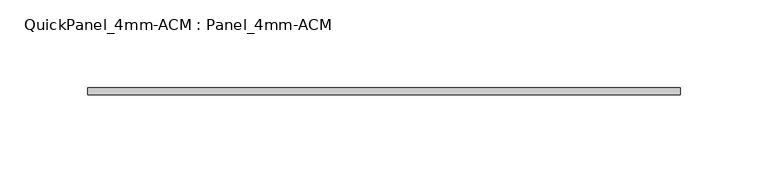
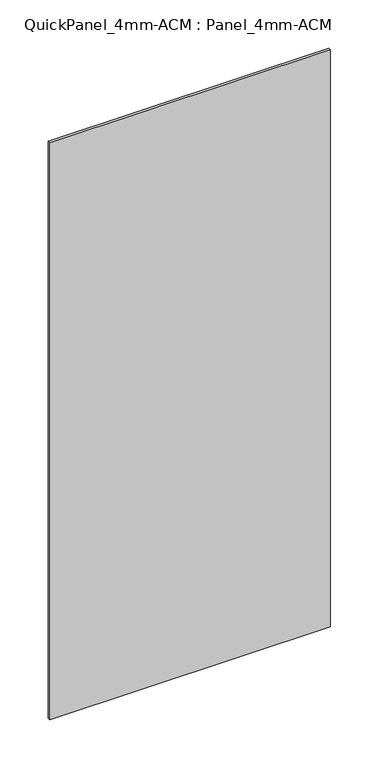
"""IFC4 building model written with IfcOpenShell, lengths in millimetres: plate geometry, QuickPanel_4mm-ACM : Panel_4mm-ACM."""

from ifc_helpers import new_model, si_unit, origin, origin_with_axes, place, context, project, spatial, polyline, outline, extrude, source, transform, mapped, element, save


def quickpanel_4mm_acm_panel_4mm_acm_f933fc8c(model_context):
    return source(origin(), model_context, "Body", "SweptSolid", [
        extrude(outline(polyline([(-168.2255019, -6.096), (168.2255019, -6.096), (168.2255019, -9.906), (-168.2255019, -9.906), (-168.2255019, -6.096)])), origin_with_axes(), (0.0, 0.0, 1.0), 731.7965616),
    ])


if __name__ == "__main__":
    model = new_model("IFC4")
    model_context = context("Model", 3, world=origin())
    ifc_project = project(units=[si_unit("LENGTHUNIT", "METRE", prefix="MILLI")], contexts=[model_context])
    site = spatial("IfcSite", under=ifc_project)
    building = spatial("IfcBuilding", under=site)
    placement = place(None, origin())
    quickpanel_4mm_acm_panel_4mm_acm_shape = quickpanel_4mm_acm_panel_4mm_acm_f933fc8c(model_context)
    element("IfcPlate", 1, ObjectType="QuickPanel_4mm-ACM : Panel_4mm-ACM", at=placement, inside=building, context=model_context, shape_type="MappedRepresentation", body=[
        mapped(quickpanel_4mm_acm_panel_4mm_acm_shape, transform((0.0, 0.0, 0.0), x_axis=(1.0, 0.0, 0.0), y_axis=(0.0, 1.0, 0.0), z_axis=(0.0, 0.0, 1.0))),
    ])
    save(model, "model.ifc")
